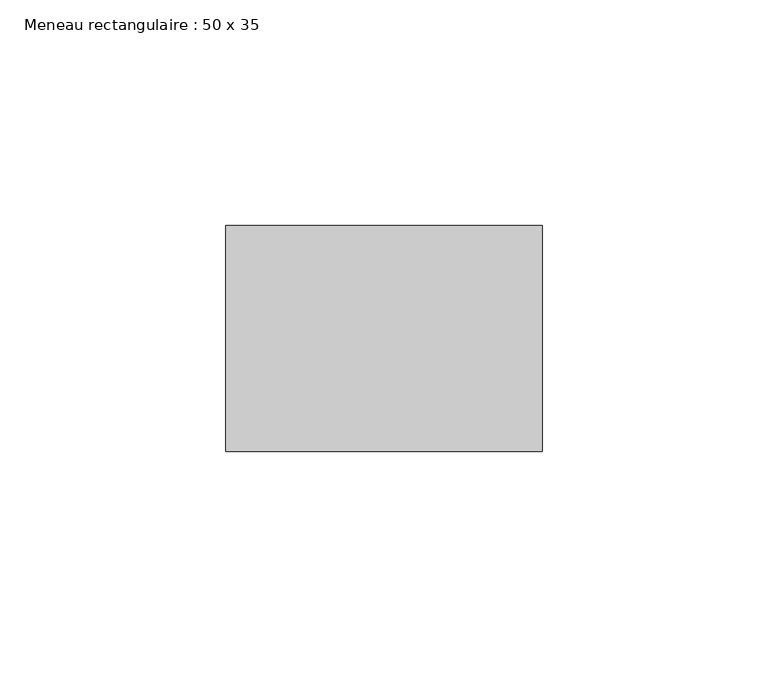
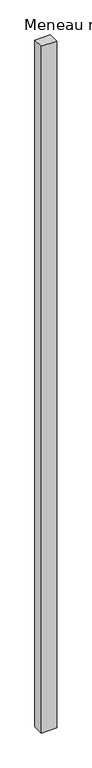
"""IFC4 building model written with IfcOpenShell, lengths in millimetres: member geometry, Meneau rectangulaire : 50 x 35."""

from ifc_helpers import new_model, si_unit, frame, origin, place, context, project, spatial, polyline, outline, extrude, source, transform, mapped, element, save


def meneau_rectangulaire_50_x_35_8bb9a173(model_context):
    return source(origin(), model_context, "Body", "SweptSolid", [
        extrude(outline(polyline([(0.0, 0.0), (0.0, -50.0), (-70.0, -50.0), (-70.0, 0.0), (0.0, 0.0)])), frame((0.0, 0.0, -3278.884107), z_axis=(0.0, 0.0, 1.0), x_axis=(1.0, 0.0, 0.0)), (0.0, 0.0, 1.0), 3278.884107),
    ])


if __name__ == "__main__":
    model = new_model("IFC4")
    model_context = context("Model", 3, world=origin())
    ifc_project = project(units=[si_unit("LENGTHUNIT", "METRE", prefix="MILLI")], contexts=[model_context])
    site = spatial("IfcSite", under=ifc_project)
    building = spatial("IfcBuilding", under=site)
    placement = place(None, origin())
    meneau_rectangulaire_50_x_35_shape = meneau_rectangulaire_50_x_35_8bb9a173(model_context)
    element("IfcMember", 1, ObjectType="Meneau rectangulaire : 50 x 35", at=placement, inside=building, context=model_context, shape_type="MappedRepresentation", body=[
        mapped(meneau_rectangulaire_50_x_35_shape, transform((0.0, 0.0, 0.0), x_axis=(1.0, 0.0, 0.0), y_axis=(0.0, 1.0, 0.0), z_axis=(0.0, 0.0, 1.0))),
    ])
    save(model, "model.ifc")
